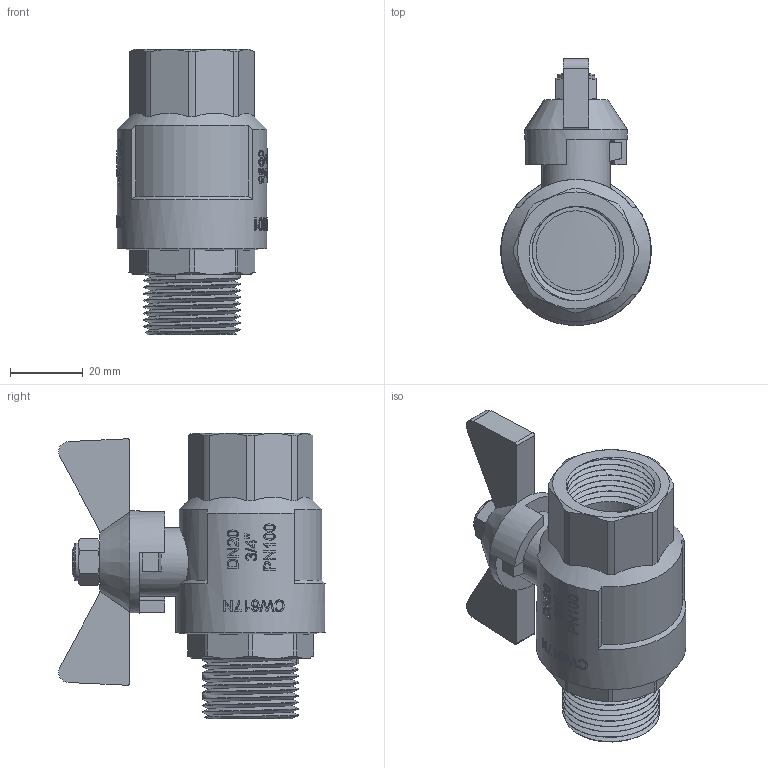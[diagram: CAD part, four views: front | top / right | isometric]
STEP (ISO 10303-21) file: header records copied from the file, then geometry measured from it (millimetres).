
FILE_DESCRIPTION(/* description */ (''),/* implementation_level */ '2;1');
FILE_NAME(/* name */ 'F:\Артём\00000\Работа удаленка\0\B\VT.318.N.05.stp',/* time_stamp */ '2021-02-03T16:24:05+03:00',/* author */ ('almis'),/* organization */ (''),/* preprocessor_version */ 'ST-DEVELOPER v18',/* originating_system */ 'Autodesk Inventor 2020',/* authorisation */ '');
FILE_SCHEMA (('AUTOMOTIVE_DESIGN { 1 0 10303 214 3 1 1 }'));
Length unit declared in the file: millimetre
Products named in the file (1): VT.314_ВВ_3%4
Bounding box: 41.44 x 73.55 x 78.7 mm (x, y, z)
Volume: 60965.9 mm3; surface area: 24701.9 mm2
Topology: 1 solids, 1 shells, 592 faces, 1584 edges, 1049 vertices
Faces by surface type: bspline 241, plane 203, cylinder 127, cone 18, torus 3
Full cylindrical faces by diameter (mm): 8 x1, 10.392 x1, 19 x1, 22 x1, 23.037 x9, 24.2 x9, 26.637 x10, 27.8 x8, 28.333 x1, 41.237 x1
Entity records: 28955 total; most frequent: CARTESIAN_POINT 15856, ORIENTED_EDGE 3168, DIRECTION 1920, EDGE_CURVE 1584, VERTEX_POINT 1049, LINE 702, VECTOR 702, EDGE_LOOP 653
